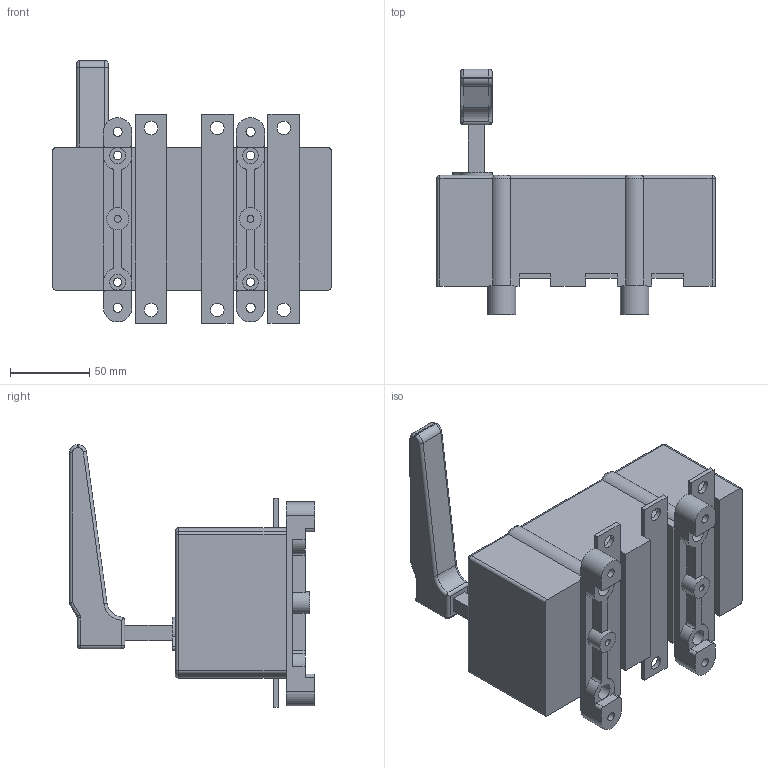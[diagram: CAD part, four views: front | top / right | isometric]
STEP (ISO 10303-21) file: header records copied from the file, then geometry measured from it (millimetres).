
FILE_DESCRIPTION(/* description */ (''),/* implementation_level */ '2;1');
FILE_NAME(/* name */ 'RA160 P3-R.stp',/* time_stamp */ '2021-08-17T13:43:52+02:00',/* author */ (''),/* organization */ (''),/* preprocessor_version */ 'ST-DEVELOPER v18.1',/* originating_system */ 'SIEMENS PLM Software NX 1965',/* authorisation */ '');
FILE_SCHEMA (('AUTOMOTIVE_DESIGN { 1 0 10303 214 3 1 1 1 }'));
Length unit declared in the file: millimetre
Products named in the file (1): RA160 P3-R_stp
Bounding box: 176 x 155 x 166 mm (x, y, z)
Volume: 1182182.6 mm3; surface area: 107276.7 mm2
Topology: 1 solids, 1 shells, 226 faces, 581 edges, 356 vertices
Faces by surface type: plane 108, cylinder 96, torus 12, sphere 10
Full cylindrical faces by diameter (mm): 4.3 x2, 5.3 x4, 5.8 x4, 8.5 x6, 10 x8, 14 x2
Entity records: 6679 total; most frequent: CARTESIAN_POINT 1198, DIRECTION 1177, ORIENTED_EDGE 1074, EDGE_CURVE 537, AXIS2_PLACEMENT_3D 427, VERTEX_POINT 348, LINE 323, VECTOR 323
